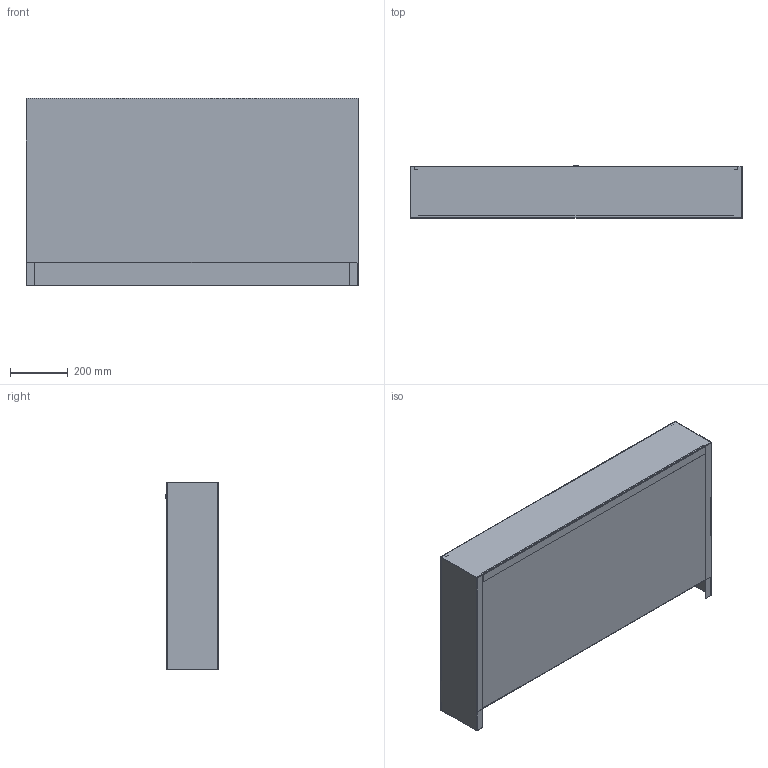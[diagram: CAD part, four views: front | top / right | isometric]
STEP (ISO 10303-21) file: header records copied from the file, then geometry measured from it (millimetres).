
FILE_DESCRIPTION(('TFLEX Exchange Step'),'2;1');
FILE_NAME('Manifold cabinet VTc.541.U.06 Valtec.stp', '2023-10-11T14:31:18+03:00',('denis'),('Unknown organisation'),'TFLEX Exchange 2023.0','T-FLEX CAD','Unknown authorisation');
FILE_SCHEMA( ('AUTOMOTIVE_DESIGN { 1 0 10303 214 1 1 1 1 }') );
Length unit declared in the file: millimetre
Products named in the file (1): Nodes
Bounding box: 1150 x 182.5 x 650 mm (x, y, z)
Volume: 1889200.8 mm3; surface area: 3948780 mm2
Topology: 5 solids, 6 shells, 315 faces, 842 edges, 529 vertices
Faces by surface type: plane 205, cylinder 79, cone 23, bspline 6, torus 2
Full cylindrical faces by diameter (mm): 10 x1, 12 x1, 16 x1, 20 x2
Entity records: 11497 total; most frequent: CARTESIAN_POINT 3648, ORIENTED_EDGE 1684, DIRECTION 1550, EDGE_CURVE 842, VECTOR 574, LINE 574, VERTEX_POINT 529, AXIS2_PLACEMENT_3D 488
